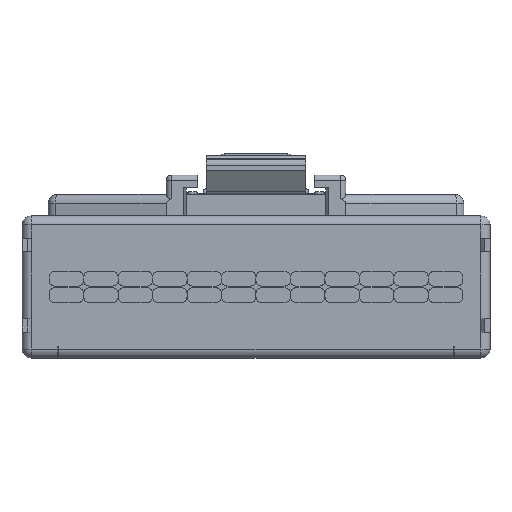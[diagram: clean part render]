
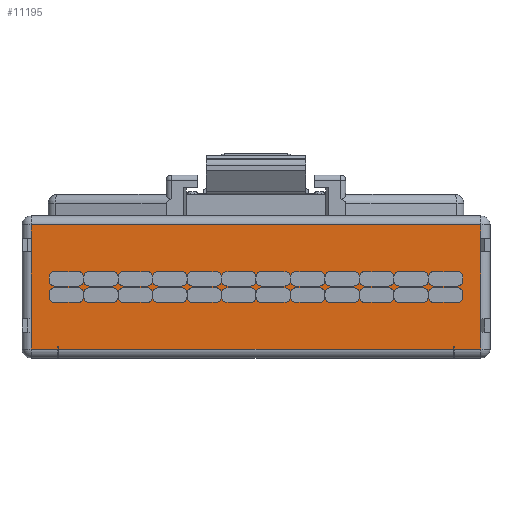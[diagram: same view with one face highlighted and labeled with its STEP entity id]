
A CAD part, front view. The second image highlights one B-rep face of the part: STEP entity #11195.
In plain terms, the highlighted planar face has unit normal (0, -1, 0).
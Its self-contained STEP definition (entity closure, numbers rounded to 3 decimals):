
#1159=DIRECTION('',(0.,0.,-1.));
#1160=VECTOR('',#1159,0.75);
#1161=CARTESIAN_POINT('',(-0.2,-3.25,2.075));
#1162=LINE('',#1161,#1160);
#1268=DIRECTION('',(0.,0.,1.));
#1269=VECTOR('',#1268,0.131);
#1270=CARTESIAN_POINT('',(23.085,-3.25,-4.04));
#1271=LINE('',#1270,#1269);
#1272=DIRECTION('',(1.,0.,0.));
#1273=VECTOR('',#1272,0.05);
#1274=CARTESIAN_POINT('',(23.035,-3.25,-3.909));
#1275=LINE('',#1274,#1273);
#1276=DIRECTION('',(1.,0.,0.));
#1277=VECTOR('',#1276,0.05);
#1278=CARTESIAN_POINT('',(1.215,-3.25,-3.909));
#1279=LINE('',#1278,#1277);
#1280=DIRECTION('',(0.,0.,-1.));
#1281=VECTOR('',#1280,0.131);
#1282=CARTESIAN_POINT('',(1.215,-3.25,-3.909));
#1283=LINE('',#1282,#1281);
#1284=DIRECTION('',(-1.,0.,0.));
#1285=VECTOR('',#1284,0.05);
#1286=CARTESIAN_POINT('',(-0.2,-3.25,-2.365));
#1287=LINE('',#1286,#1285);
#1288=DIRECTION('',(1.,0.,0.));
#1289=VECTOR('',#1288,0.05);
#1290=CARTESIAN_POINT('',(-0.25,-3.25,1.325));
#1291=LINE('',#1290,#1289);
#1292=DIRECTION('',(-1.,0.,0.));
#1293=VECTOR('',#1292,0.05);
#1294=CARTESIAN_POINT('',(-0.2,-3.25,2.075));
#1295=LINE('',#1294,#1293);
#1296=DIRECTION('',(-1.,0.,0.));
#1297=VECTOR('',#1296,0.05);
#1298=CARTESIAN_POINT('',(24.55,-3.25,2.075));
#1299=LINE('',#1298,#1297);
#1300=DIRECTION('',(1.,0.,0.));
#1301=VECTOR('',#1300,0.05);
#1302=CARTESIAN_POINT('',(24.5,-3.25,-3.115));
#1303=LINE('',#1302,#1301);
#1607=DIRECTION('',(0.,0.,-1.));
#1608=VECTOR('',#1607,3.69);
#1609=CARTESIAN_POINT('',(-0.25,-3.25,1.325));
#1610=LINE('',#1609,#1608);
#1636=DIRECTION('',(-1.,0.,0.));
#1637=VECTOR('',#1636,0.05);
#1638=CARTESIAN_POINT('',(-0.2,-3.25,-3.115));
#1639=LINE('',#1638,#1637);
#1673=DIRECTION('',(0.,0.,-1.));
#1674=VECTOR('',#1673,0.75);
#1675=CARTESIAN_POINT('',(-0.2,-3.25,-2.365));
#1676=LINE('',#1675,#1674);
#1749=DIRECTION('',(0.,0.,-1.));
#1750=VECTOR('',#1749,0.925);
#1751=CARTESIAN_POINT('',(-0.25,-3.25,-3.115));
#1752=LINE('',#1751,#1750);
#1772=DIRECTION('',(1.,0.,0.));
#1773=VECTOR('',#1772,1.465);
#1774=CARTESIAN_POINT('',(-0.25,-3.25,-4.04));
#1775=LINE('',#1774,#1773);
#1813=DIRECTION('',(0.,0.,-1.));
#1814=VECTOR('',#1813,0.131);
#1815=CARTESIAN_POINT('',(1.265,-3.25,-3.909));
#1816=LINE('',#1815,#1814);
#1822=DIRECTION('',(1.,0.,0.));
#1823=VECTOR('',#1822,21.77);
#1824=CARTESIAN_POINT('',(1.265,-3.25,-4.04));
#1825=LINE('',#1824,#1823);
#1847=DIRECTION('',(0.,0.,1.));
#1848=VECTOR('',#1847,0.131);
#1849=CARTESIAN_POINT('',(23.035,-3.25,-4.04));
#1850=LINE('',#1849,#1848);
#2121=DIRECTION('',(0.,0.,1.));
#2122=VECTOR('',#2121,0.75);
#2123=CARTESIAN_POINT('',(24.5,-3.25,-3.115));
#2124=LINE('',#2123,#2122);
#2518=DIRECTION('',(1.,0.,0.));
#2519=VECTOR('',#2518,0.05);
#2520=CARTESIAN_POINT('',(24.5,-3.25,-2.365));
#2521=LINE('',#2520,#2519);
#2565=DIRECTION('',(0.,0.,1.));
#2566=VECTOR('',#2565,3.69);
#2567=CARTESIAN_POINT('',(24.55,-3.25,-2.365));
#2568=LINE('',#2567,#2566);
#2582=DIRECTION('',(-1.,0.,0.));
#2583=VECTOR('',#2582,0.05);
#2584=CARTESIAN_POINT('',(24.55,-3.25,1.325));
#2585=LINE('',#2584,#2583);
#2674=DIRECTION('',(0.,0.,1.));
#2675=VECTOR('',#2674,0.75);
#2676=CARTESIAN_POINT('',(24.5,-3.25,1.325));
#2677=LINE('',#2676,#2675);
#2719=DIRECTION('',(0.,0.,1.));
#2720=VECTOR('',#2719,0.725);
#2721=CARTESIAN_POINT('',(24.55,-3.25,2.075));
#2722=LINE('',#2721,#2720);
#2746=DIRECTION('',(-1.,0.,0.));
#2747=VECTOR('',#2746,24.8);
#2748=CARTESIAN_POINT('',(24.55,-3.25,2.8));
#2749=LINE('',#2748,#2747);
#2769=DIRECTION('',(0.,0.,-1.));
#2770=VECTOR('',#2769,0.725);
#2771=CARTESIAN_POINT('',(-0.25,-3.25,2.8));
#2772=LINE('',#2771,#2770);
#3773=DIRECTION('',(1.,0.,0.));
#3774=VECTOR('',#3773,1.465);
#3775=CARTESIAN_POINT('',(23.085,-3.25,-4.04));
#3776=LINE('',#3775,#3774);
#3781=DIRECTION('',(0.,0.,1.));
#3782=VECTOR('',#3781,0.925);
#3783=CARTESIAN_POINT('',(24.55,-3.25,-4.04));
#3784=LINE('',#3783,#3782);
#7963=CARTESIAN_POINT('',(-0.2,-3.25,-3.115));
#7964=VERTEX_POINT('',#7963);
#7965=CARTESIAN_POINT('',(-0.25,-3.25,-3.115));
#7966=VERTEX_POINT('',#7965);
#7975=CARTESIAN_POINT('',(-0.2,-3.25,-2.365));
#7976=VERTEX_POINT('',#7975);
#7991=CARTESIAN_POINT('',(1.265,-3.25,-4.04));
#7993=VERTEX_POINT('',#7991);
#8464=CARTESIAN_POINT('',(23.085,-3.25,-4.04));
#8465=VERTEX_POINT('',#8464);
#8466=CARTESIAN_POINT('',(-0.25,-3.25,-4.04));
#8467=CARTESIAN_POINT('',(1.215,-3.25,-4.04));
#8468=VERTEX_POINT('',#8466);
#8469=VERTEX_POINT('',#8467);
#8470=CARTESIAN_POINT('',(-0.25,-3.25,-2.365));
#8471=VERTEX_POINT('',#8470);
#8472=CARTESIAN_POINT('',(-0.25,-3.25,1.325));
#8473=VERTEX_POINT('',#8472);
#8474=CARTESIAN_POINT('',(-0.2,-3.25,1.325));
#8475=VERTEX_POINT('',#8474);
#8476=CARTESIAN_POINT('',(-0.2,-3.25,2.075));
#8477=VERTEX_POINT('',#8476);
#8478=CARTESIAN_POINT('',(-0.25,-3.25,2.075));
#8479=VERTEX_POINT('',#8478);
#8480=CARTESIAN_POINT('',(-0.25,-3.25,2.8));
#8481=VERTEX_POINT('',#8480);
#8482=CARTESIAN_POINT('',(24.55,-3.25,2.8));
#8483=VERTEX_POINT('',#8482);
#8484=CARTESIAN_POINT('',(24.55,-3.25,2.075));
#8485=VERTEX_POINT('',#8484);
#8486=CARTESIAN_POINT('',(24.5,-3.25,2.075));
#8487=VERTEX_POINT('',#8486);
#8488=CARTESIAN_POINT('',(24.5,-3.25,1.325));
#8489=VERTEX_POINT('',#8488);
#8490=CARTESIAN_POINT('',(24.55,-3.25,1.325));
#8491=VERTEX_POINT('',#8490);
#8492=CARTESIAN_POINT('',(24.55,-3.25,-2.365));
#8493=VERTEX_POINT('',#8492);
#8494=CARTESIAN_POINT('',(24.5,-3.25,-2.365));
#8495=VERTEX_POINT('',#8494);
#8496=CARTESIAN_POINT('',(24.5,-3.25,-3.115));
#8497=VERTEX_POINT('',#8496);
#8498=CARTESIAN_POINT('',(24.55,-3.25,-3.115));
#8499=VERTEX_POINT('',#8498);
#8500=CARTESIAN_POINT('',(24.55,-3.25,-4.04));
#8501=VERTEX_POINT('',#8500);
#8502=CARTESIAN_POINT('',(23.035,-3.25,-4.04));
#8503=VERTEX_POINT('',#8502);
#9312=CARTESIAN_POINT('',(1.265,-3.25,-3.909));
#9314=VERTEX_POINT('',#9312);
#9321=CARTESIAN_POINT('',(23.085,-3.25,-3.909));
#9322=VERTEX_POINT('',#9321);
#9325=CARTESIAN_POINT('',(1.215,-3.25,-3.909));
#9326=VERTEX_POINT('',#9325);
#9329=CARTESIAN_POINT('',(23.035,-3.25,-3.909));
#9330=VERTEX_POINT('',#9329);
#11134=CARTESIAN_POINT('',(12.15,-3.25,-3.54));
#11135=DIRECTION('',(0.,1.,0.));
#11136=DIRECTION('',(1.,0.,0.));
#11137=AXIS2_PLACEMENT_3D('',#11134,#11135,#11136);
#11138=PLANE('',#11137);
#11140=ORIENTED_EDGE('',*,*,#11139,.T.);
#11142=ORIENTED_EDGE('',*,*,#11141,.F.);
#11144=ORIENTED_EDGE('',*,*,#11143,.F.);
#11146=ORIENTED_EDGE('',*,*,#11145,.F.);
#11148=ORIENTED_EDGE('',*,*,#11147,.F.);
#11150=ORIENTED_EDGE('',*,*,#11149,.F.);
#11152=ORIENTED_EDGE('',*,*,#11151,.T.);
#11154=ORIENTED_EDGE('',*,*,#11153,.F.);
#11156=ORIENTED_EDGE('',*,*,#11155,.F.);
#11158=ORIENTED_EDGE('',*,*,#11157,.F.);
#11160=ORIENTED_EDGE('',*,*,#11159,.F.);
#11162=ORIENTED_EDGE('',*,*,#11161,.T.);
#11164=ORIENTED_EDGE('',*,*,#11163,.F.);
#11165=ORIENTED_EDGE('',*,*,#11125,.T.);
#11166=ORIENTED_EDGE('',*,*,#10968,.F.);
#11168=ORIENTED_EDGE('',*,*,#11167,.T.);
#11170=ORIENTED_EDGE('',*,*,#11169,.F.);
#11172=ORIENTED_EDGE('',*,*,#11171,.F.);
#11174=ORIENTED_EDGE('',*,*,#11173,.F.);
#11176=ORIENTED_EDGE('',*,*,#11175,.T.);
#11178=ORIENTED_EDGE('',*,*,#11177,.F.);
#11180=ORIENTED_EDGE('',*,*,#11179,.F.);
#11182=ORIENTED_EDGE('',*,*,#11181,.F.);
#11184=ORIENTED_EDGE('',*,*,#11183,.F.);
#11186=ORIENTED_EDGE('',*,*,#11185,.F.);
#11188=ORIENTED_EDGE('',*,*,#11187,.T.);
#11190=ORIENTED_EDGE('',*,*,#11189,.F.);
#11192=ORIENTED_EDGE('',*,*,#11191,.F.);
#11193=EDGE_LOOP('',(#11140,#11142,#11144,#11146,#11148,#11150,#11152,#11154,
#11156,#11158,#11160,#11162,#11164,#11165,#11166,#11168,#11170,#11172,#11174,
#11176,#11178,#11180,#11182,#11184,#11186,#11188,#11190,#11192));
#11194=FACE_OUTER_BOUND('',#11193,.F.);
#11195=ADVANCED_FACE('',(#11194),#11138,.F.);
#10968=EDGE_CURVE('',#8477,#8475,#1162,.T.);
#11125=EDGE_CURVE('',#8473,#8475,#1291,.T.);
#11139=EDGE_CURVE('',#8465,#9322,#1271,.T.);
#11141=EDGE_CURVE('',#9330,#9322,#1275,.T.);
#11143=EDGE_CURVE('',#8503,#9330,#1850,.T.);
#11145=EDGE_CURVE('',#7993,#8503,#1825,.T.);
#11147=EDGE_CURVE('',#9314,#7993,#1816,.T.);
#11149=EDGE_CURVE('',#9326,#9314,#1279,.T.);
#11151=EDGE_CURVE('',#9326,#8469,#1283,.T.);
#11153=EDGE_CURVE('',#8468,#8469,#1775,.T.);
#11155=EDGE_CURVE('',#7966,#8468,#1752,.T.);
#11157=EDGE_CURVE('',#7964,#7966,#1639,.T.);
#11159=EDGE_CURVE('',#7976,#7964,#1676,.T.);
#11161=EDGE_CURVE('',#7976,#8471,#1287,.T.);
#11163=EDGE_CURVE('',#8473,#8471,#1610,.T.);
#11167=EDGE_CURVE('',#8477,#8479,#1295,.T.);
#11169=EDGE_CURVE('',#8481,#8479,#2772,.T.);
#11171=EDGE_CURVE('',#8483,#8481,#2749,.T.);
#11173=EDGE_CURVE('',#8485,#8483,#2722,.T.);
#11175=EDGE_CURVE('',#8485,#8487,#1299,.T.);
#11177=EDGE_CURVE('',#8489,#8487,#2677,.T.);
#11179=EDGE_CURVE('',#8491,#8489,#2585,.T.);
#11181=EDGE_CURVE('',#8493,#8491,#2568,.T.);
#11183=EDGE_CURVE('',#8495,#8493,#2521,.T.);
#11185=EDGE_CURVE('',#8497,#8495,#2124,.T.);
#11187=EDGE_CURVE('',#8497,#8499,#1303,.T.);
#11189=EDGE_CURVE('',#8501,#8499,#3784,.T.);
#11191=EDGE_CURVE('',#8465,#8501,#3776,.T.);
